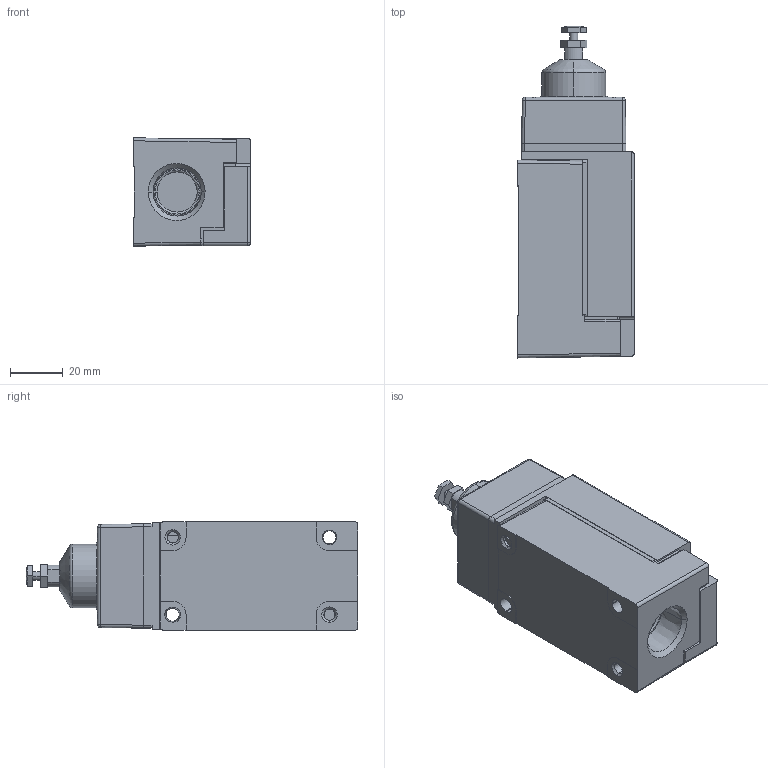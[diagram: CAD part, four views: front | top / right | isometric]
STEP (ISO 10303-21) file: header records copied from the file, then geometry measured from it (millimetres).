
FILE_DESCRIPTION((''),'2;1');
FILE_NAME('LSV1A','2012-12-06T',('E522935'),(''),'PRO/ENGINEER BY PARAMETRIC TECHNOLOGY CORPORATION, 2009460','PRO/ENGINEER BY PARAMETRIC TECHNOLOGY CORPORATION, 2009460','');
FILE_SCHEMA(('CONFIG_CONTROL_DESIGN'));
Length unit declared in the file: millimetre
Products named in the file (1): LSV1A
Bounding box: 44.32 x 126 x 41.15 mm (x, y, z)
Volume: 168828.5 mm3; surface area: 25186.1 mm2
Topology: 1 solids, 1 shells, 440 faces, 1084 edges, 663 vertices
Faces by surface type: plane 256, cylinder 118, cone 25, sphere 19, bspline 16, torus 6
Entity records: 13751 total; most frequent: CARTESIAN_POINT 3266, DIRECTION 2209, ORIENTED_EDGE 2164, EDGE_CURVE 1082, AXIS2_PLACEMENT_3D 776, VERTEX_POINT 663, VECTOR 657, LINE 657
